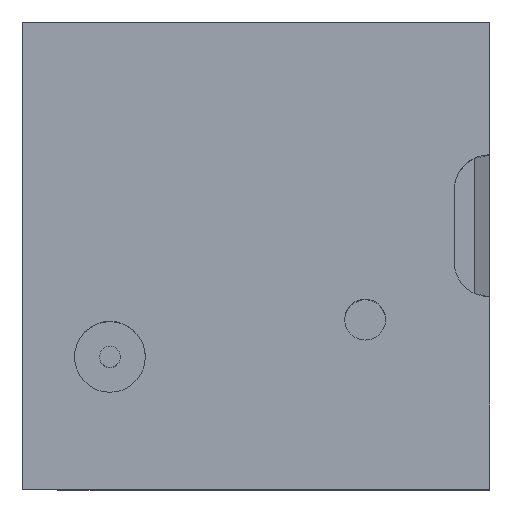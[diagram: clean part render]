
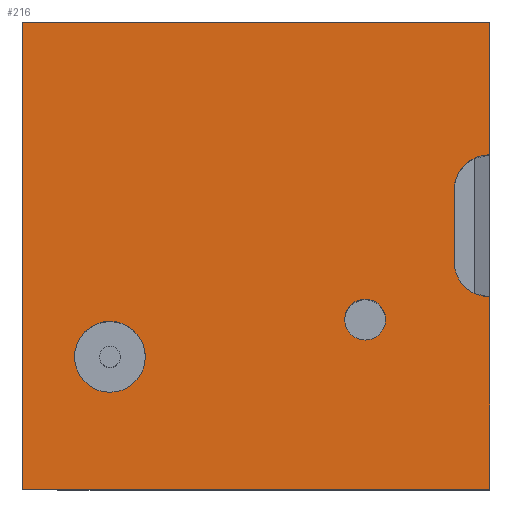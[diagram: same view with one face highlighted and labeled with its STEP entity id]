
A CAD part, top view. The second image highlights one B-rep face of the part: STEP entity #216.
In plain terms, the highlighted planar face has unit normal (0, 0, 1).
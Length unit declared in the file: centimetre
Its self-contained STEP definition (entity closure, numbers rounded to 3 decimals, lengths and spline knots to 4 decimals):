
#16 = DIRECTION ( 'NONE',  ( 0., 0., 1. ) ) ;
#40 = VERTEX_POINT ( 'NONE', #1031 ) ;
#46 = ORIENTED_EDGE ( 'NONE', *, *, #899, .T. ) ;
#113 = VERTEX_POINT ( 'NONE', #1151 ) ;
#121 = EDGE_CURVE ( 'NONE', #780, #251, #1242, .T. ) ;
#127 = CARTESIAN_POINT ( 'NONE',  ( 1000., 1000., 1000. ) ) ;
#130 = AXIS2_PLACEMENT_3D ( 'NONE', #547, #354, #822 ) ;
#165 = ORIENTED_EDGE ( 'NONE', *, *, #922, .F. ) ;
#168 = CARTESIAN_POINT ( 'NONE',  ( 1000., 0., 1000. ) ) ;
#169 = VERTEX_POINT ( 'NONE', #1272 ) ;
#199 = CIRCLE ( 'NONE', #692, 75.7547 ) ;
#203 = ORIENTED_EDGE ( 'NONE', *, *, #121, .T. ) ;
#216 = ADVANCED_FACE ( 'NONE', ( #334, #444, #677 ), #1165, .T. ) ;
#217 = ORIENTED_EDGE ( 'NONE', *, *, #1063, .F. ) ;
#233 = DIRECTION ( 'NONE',  ( 1., 0., 0. ) ) ;
#251 = VERTEX_POINT ( 'NONE', #865 ) ;
#253 = CARTESIAN_POINT ( 'NONE',  ( 923.9664, 487.9065, 1000. ) ) ;
#281 = ORIENTED_EDGE ( 'NONE', *, *, #453, .F. ) ;
#287 = VERTEX_POINT ( 'NONE', #253 ) ;
#305 = CARTESIAN_POINT ( 'NONE',  ( 1000., 1000., 1000. ) ) ;
#321 = DIRECTION ( 'NONE',  ( 0., 0., 1. ) ) ;
#334 = FACE_BOUND ( 'NONE', #1053, .T. ) ;
#354 = DIRECTION ( 'NONE',  ( 0., 0., 1. ) ) ;
#412 = CARTESIAN_POINT ( 'NONE',  ( 187.2843, 283.2592, 1000. ) ) ;
#420 = DIRECTION ( 'NONE',  ( 0., 1., 0. ) ) ;
#444 = FACE_BOUND ( 'NONE', #1353, .T. ) ;
#453 = EDGE_CURVE ( 'NONE', #287, #251, #676, .T. ) ;
#474 = ORIENTED_EDGE ( 'NONE', *, *, #988, .F. ) ;
#481 = VERTEX_POINT ( 'NONE', #1225 ) ;
#508 = CIRCLE ( 'NONE', #969, 75.7547 ) ;
#523 = DIRECTION ( 'NONE',  ( 0., 0., 1. ) ) ;
#543 = VERTEX_POINT ( 'NONE', #305 ) ;
#547 = CARTESIAN_POINT ( 'NONE',  ( 1000., 487.9065, 1000. ) ) ;
#551 = EDGE_CURVE ( 'NONE', #564, #780, #698, .T. ) ;
#562 = CIRCLE ( 'NONE', #923, 43.8073 ) ;
#564 = VERTEX_POINT ( 'NONE', #714 ) ;
#567 = DIRECTION ( 'NONE',  ( 1., 0., 0. ) ) ;
#569 = DIRECTION ( 'NONE',  ( 0., -1., 0. ) ) ;
#570 = AXIS2_PLACEMENT_3D ( 'NONE', #636, #16, #567 ) ;
#580 = DIRECTION ( 'NONE',  ( 0., 1., 0. ) ) ;
#584 = CARTESIAN_POINT ( 'NONE',  ( 0., 0., 1000. ) ) ;
#606 = VECTOR ( 'NONE', #569, 100. ) ;
#611 = VECTOR ( 'NONE', #1261, 100. ) ;
#618 = EDGE_CURVE ( 'NONE', #942, #564, #1338, .T. ) ;
#620 = DIRECTION ( 'NONE',  ( 0., 0., 1. ) ) ;
#636 = CARTESIAN_POINT ( 'NONE',  ( 0., 0., 1000. ) ) ;
#658 = EDGE_CURVE ( 'NONE', #543, #942, #1067, .T. ) ;
#676 = CIRCLE ( 'NONE', #130, 76.0336 ) ;
#677 = FACE_OUTER_BOUND ( 'NONE', #1110, .T. ) ;
#684 = CARTESIAN_POINT ( 'NONE',  ( 187.2843, 283.2592, 1000. ) ) ;
#692 = AXIS2_PLACEMENT_3D ( 'NONE', #684, #909, #762 ) ;
#698 = LINE ( 'NONE', #584, #1321 ) ;
#714 = CARTESIAN_POINT ( 'NONE',  ( 0., 0., 1000. ) ) ;
#730 = DIRECTION ( 'NONE',  ( 1., 0., 0. ) ) ;
#737 = EDGE_CURVE ( 'NONE', #40, #113, #792, .T. ) ;
#762 = DIRECTION ( 'NONE',  ( 1., 0., 0. ) ) ;
#775 = CARTESIAN_POINT ( 'NONE',  ( 263.0389, 283.2592, 1000. ) ) ;
#780 = VERTEX_POINT ( 'NONE', #168 ) ;
#792 = CIRCLE ( 'NONE', #966, 43.8073 ) ;
#797 = VERTEX_POINT ( 'NONE', #775 ) ;
#814 = CARTESIAN_POINT ( 'NONE',  ( 1000., 1000., 1000. ) ) ;
#816 = CARTESIAN_POINT ( 'NONE',  ( 0., 1000., 1000. ) ) ;
#822 = DIRECTION ( 'NONE',  ( -1., 0., 0. ) ) ;
#829 = DIRECTION ( 'NONE',  ( 1., 0., 0. ) ) ;
#837 = VECTOR ( 'NONE', #580, 100. ) ;
#859 = AXIS2_PLACEMENT_3D ( 'NONE', #1037, #321, #730 ) ;
#865 = CARTESIAN_POINT ( 'NONE',  ( 1000., 411.873, 1000. ) ) ;
#879 = CARTESIAN_POINT ( 'NONE',  ( 923.9664, 487.9065, 1000. ) ) ;
#899 = EDGE_CURVE ( 'NONE', #1122, #543, #1075, .T. ) ;
#909 = DIRECTION ( 'NONE',  ( 0., 0., 1. ) ) ;
#914 = DIRECTION ( 'NONE',  ( 1., 0., 0. ) ) ;
#922 = EDGE_CURVE ( 'NONE', #481, #797, #508, .T. ) ;
#923 = AXIS2_PLACEMENT_3D ( 'NONE', #1278, #523, #233 ) ;
#928 = VECTOR ( 'NONE', #1239, 100. ) ;
#942 = VERTEX_POINT ( 'NONE', #1128 ) ;
#946 = CARTESIAN_POINT ( 'NONE',  ( 1000., 715.7722, 1000. ) ) ;
#960 = ORIENTED_EDGE ( 'NONE', *, *, #658, .T. ) ;
#966 = AXIS2_PLACEMENT_3D ( 'NONE', #1358, #620, #1049 ) ;
#969 = AXIS2_PLACEMENT_3D ( 'NONE', #412, #1361, #829 ) ;
#988 = EDGE_CURVE ( 'NONE', #1122, #169, #1279, .T. ) ;
#1001 = LINE ( 'NONE', #879, #606 ) ;
#1031 = CARTESIAN_POINT ( 'NONE',  ( 689.8927, 362.9921, 1000. ) ) ;
#1037 = CARTESIAN_POINT ( 'NONE',  ( 1000., 639.7386, 1000. ) ) ;
#1038 = ORIENTED_EDGE ( 'NONE', *, *, #1244, .F. ) ;
#1049 = DIRECTION ( 'NONE',  ( 1., 0., 0. ) ) ;
#1053 = EDGE_LOOP ( 'NONE', ( #1172, #165 ) ) ;
#1063 = EDGE_CURVE ( 'NONE', #113, #40, #562, .T. ) ;
#1067 = LINE ( 'NONE', #1158, #611 ) ;
#1075 = LINE ( 'NONE', #127, #837 ) ;
#1100 = ORIENTED_EDGE ( 'NONE', *, *, #551, .T. ) ;
#1110 = EDGE_LOOP ( 'NONE', ( #281, #1038, #474, #46, #960, #1152, #1100, #203 ) ) ;
#1122 = VERTEX_POINT ( 'NONE', #946 ) ;
#1128 = CARTESIAN_POINT ( 'NONE',  ( 0., 1000., 1000. ) ) ;
#1151 = CARTESIAN_POINT ( 'NONE',  ( 777.5072, 362.9921, 1000. ) ) ;
#1152 = ORIENTED_EDGE ( 'NONE', *, *, #618, .T. ) ;
#1158 = CARTESIAN_POINT ( 'NONE',  ( 0., 1000., 1000. ) ) ;
#1165 = PLANE ( 'NONE',  #570 ) ;
#1172 = ORIENTED_EDGE ( 'NONE', *, *, #1267, .F. ) ;
#1191 = VECTOR ( 'NONE', #420, 100. ) ;
#1204 = ORIENTED_EDGE ( 'NONE', *, *, #737, .F. ) ;
#1225 = CARTESIAN_POINT ( 'NONE',  ( 111.5296, 283.2592, 1000. ) ) ;
#1239 = DIRECTION ( 'NONE',  ( 0., -1., 0. ) ) ;
#1242 = LINE ( 'NONE', #814, #1191 ) ;
#1244 = EDGE_CURVE ( 'NONE', #169, #287, #1001, .T. ) ;
#1261 = DIRECTION ( 'NONE',  ( -1., 0., 0. ) ) ;
#1267 = EDGE_CURVE ( 'NONE', #797, #481, #199, .T. ) ;
#1272 = CARTESIAN_POINT ( 'NONE',  ( 923.9664, 639.7386, 1000. ) ) ;
#1278 = CARTESIAN_POINT ( 'NONE',  ( 733.6999, 362.9921, 1000. ) ) ;
#1279 = CIRCLE ( 'NONE', #859, 76.0336 ) ;
#1321 = VECTOR ( 'NONE', #914, 100. ) ;
#1338 = LINE ( 'NONE', #816, #928 ) ;
#1353 = EDGE_LOOP ( 'NONE', ( #217, #1204 ) ) ;
#1358 = CARTESIAN_POINT ( 'NONE',  ( 733.6999, 362.9921, 1000. ) ) ;
#1361 = DIRECTION ( 'NONE',  ( 0., 0., 1. ) ) ;
